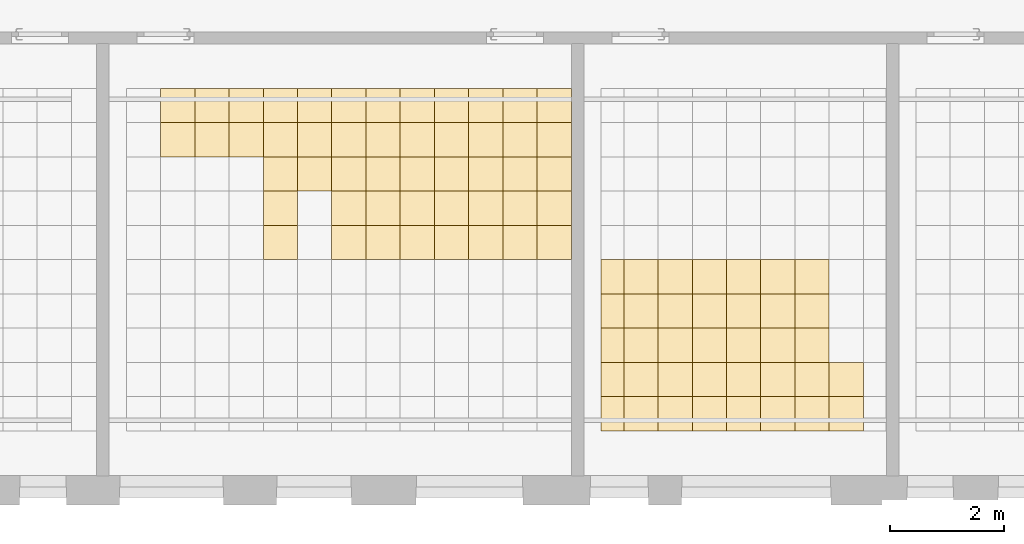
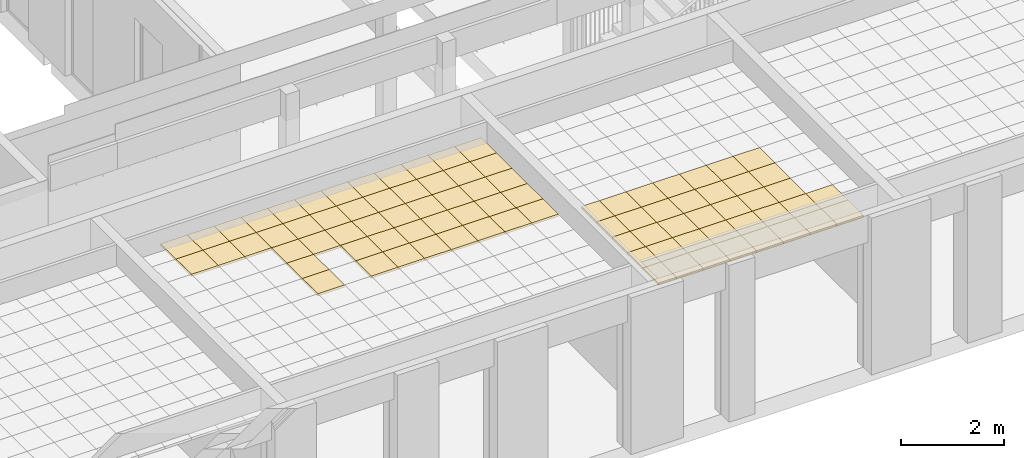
# One storey, part 69 of 79: 86 coverings.
"""IFC2X3 building model written with IfcOpenShell, lengths in millimetres."""

from ifc_helpers import new_model, entity, si_unit, converted_unit, derived_unit, money_unit, direction, frame, origin_with_axes, place, context, subcontext, project, spatial, faceted_brep, material, material_list, type_object, element, save


model = new_model("IFC2X3")

# Units and contexts
model_context = context("Model", 3, precision=0.01, world=origin_with_axes(), true_north=direction((0.0, 1.0)))
body_context = subcontext(model_context, "Body", "Model", "MODEL_VIEW")
ifc_project = project(units=[si_unit("LENGTHUNIT", "METRE", prefix="MILLI"), si_unit("AREAUNIT", "SQUARE_METRE"), si_unit("VOLUMEUNIT", "CUBIC_METRE"), converted_unit("PLANEANGLEUNIT", "DEGREE", entity("IfcPlaneAngleMeasure", 0.0174532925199), si_unit("PLANEANGLEUNIT", "RADIAN"), dimensions=[0, 0, 0, 0, 0, 0, 0]), si_unit("SOLIDANGLEUNIT", "STERADIAN"), money_unit("EUR"), converted_unit("TIMEUNIT", "Year", entity("IfcTimeMeasure", 31556926.0), si_unit("TIMEUNIT", "SECOND"), dimensions=[0, 0, 1, 0, 0, 0, 0]), si_unit("MASSUNIT", "GRAM", prefix="KILO"), si_unit("THERMODYNAMICTEMPERATUREUNIT", "DEGREE_CELSIUS"), si_unit("LUMINOUSINTENSITYUNIT", "LUMEN"), si_unit("ENERGYUNIT", "JOULE", prefix="MEGA"), derived_unit("THERMALCONDUCTANCEUNIT", [(si_unit("POWERUNIT", "WATT"), 1), (si_unit("LENGTHUNIT", "METRE"), -1), (si_unit("THERMODYNAMICTEMPERATUREUNIT", "KELVIN"), -1)]), derived_unit("SPECIFICHEATCAPACITYUNIT", [(si_unit("ENERGYUNIT", "JOULE"), 1), (si_unit("MASSUNIT", "GRAM", prefix="KILO"), -1), (si_unit("THERMODYNAMICTEMPERATUREUNIT", "KELVIN"), -1)]), derived_unit("MASSDENSITYUNIT", [(si_unit("MASSUNIT", "GRAM", prefix="KILO"), 1), (si_unit("VOLUMEUNIT", "CUBIC_METRE"), -1)])], contexts=[model_context])

# Site, building, storey
site_placement = place(None, origin_with_axes())
site = spatial("IfcSite", under=ifc_project, at=site_placement, Name="L.Koidula tn 11b", CompositionType="ELEMENT")
building_placement = place(site_placement, origin_with_axes())
building = spatial("IfcBuilding", under=site, at=building_placement, Name="Rakvere Riigigümnaasium", CompositionType="ELEMENT")
storey_placement = place(building_placement, frame((0.0, 0.0, 3720.0), z_axis=(0.0, 0.0, 1.0), x_axis=(1.0, 0.0, 0.0)))
storey = spatial("IfcBuildingStorey", under=building, at=storey_placement, Name="2.korrus +3,72", CompositionType="ELEMENT", Elevation=3720.0)

# Coverings
ifc_material_1 = material(Name="Karkass")
ifc_material_2 = material(Name="Kipsplaat")
ifc_material_list = material_list([ifc_material_1, ifc_material_2])
covering_type = type_object("IfcCoveringType", Name="SA-LV-Kips-moodul 55", PredefinedType="CEILING")
for number, where, z_axis, x_axis, name in (
    (1, (64129.7188137, 7490.45359412, 2750.0), (0.0, 0.0, 1.0), (1.0, 0.0, 0.0), "L-03"),
    (2, (64129.7188137, 8090.45359412, 2750.0), (0.0, 0.0, 1.0), (1.0, 0.0, 0.0), "L-03"),
    (3, (64129.7188137, 8690.45359412, 2750.0), (0.0, 0.0, 1.0), (1.0, 0.0, 0.0), "L-03"),
    (4, (64129.7188137, 6890.45359412, 2750.0), (0.0, 0.0, 1.0), (1.0, 0.0, 0.0), "L-03"),
    (5, (64129.7188137, 6290.45359412, 2750.0), (0.0, 0.0, 1.0), (1.0, 0.0, 0.0), "L-03"),
):
    element("IfcCovering", number, at=place(storey_placement, frame(where, z_axis=z_axis, x_axis=x_axis)), inside=storey, type_object=covering_type, material=ifc_material_list, Name=name, PredefinedType="CEILING", context=body_context, shape_type="Brep", body=[
        faceted_brep([(599.999948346, 0.0, 12.5), (599.999948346, 0.0, 54.5), (0.0, 0.0, 54.5), (0.0, 0.0, 12.5), (599.999948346, 600.0, 12.5), (599.999948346, 600.0, 54.5), (0.0, 600.0, 54.5), (0.0, 600.0, 12.5)], [[[0, 1, 2, 3]], [[4, 5, 1, 0]], [[2, 1, 5, 6]], [[3, 2, 6, 7]], [[3, 7, 4, 0]], [[7, 6, 5, 4]]]),
        faceted_brep([(0.0, 0.0, 0.0), (599.999948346, 0.0, 0.0), (599.999948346, 0.0, 12.5), (0.0, 0.0, 12.5), (0.0, 600.0, 0.0), (599.999948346, 600.0, 0.0), (599.999948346, 600.0, 12.5), (0.0, 600.0, 12.5)], [[[0, 1, 2, 3]], [[0, 4, 5, 1]], [[1, 5, 6, 2]], [[3, 2, 6, 7]], [[4, 0, 3, 7]], [[5, 4, 7, 6]]]),
    ])
for number, where, z_axis, x_axis, name in (
    (6, (64729.718762, 8690.45359412, 2750.0), (0.0, 0.0, 1.0), (1.0, 0.0, 0.0), "L-03"),
    (7, (64729.718762, 8090.45359412, 2750.0), (0.0, 0.0, 1.0), (1.0, 0.0, 0.0), "L-03"),
    (8, (64729.718762, 7490.45359412, 2750.0), (0.0, 0.0, 1.0), (1.0, 0.0, 0.0), "L-03"),
):
    element("IfcCovering", number, at=place(storey_placement, frame(where, z_axis=z_axis, x_axis=x_axis)), inside=storey, type_object=covering_type, material=ifc_material_list, Name=name, PredefinedType="CEILING", context=body_context, shape_type="Brep", body=[
        faceted_brep([(600.0, 0.0, 12.5), (600.0, 0.0, 54.5), (0.0, 0.0, 54.5), (0.0, 0.0, 12.5), (600.0, 600.0, 12.5), (600.0, 600.0, 54.5), (0.0, 600.0, 54.5), (0.0, 600.0, 12.5)], [[[0, 1, 2, 3]], [[4, 5, 1, 0]], [[2, 1, 5, 6]], [[3, 2, 6, 7]], [[3, 7, 4, 0]], [[7, 6, 5, 4]]]),
        faceted_brep([(0.0, 0.0, 0.0), (600.0, 0.0, 0.0), (600.0, 0.0, 12.5), (0.0, 0.0, 12.5), (0.0, 600.0, 0.0), (600.0, 600.0, 0.0), (600.0, 600.0, 12.5), (0.0, 600.0, 12.5)], [[[0, 1, 2, 3]], [[0, 4, 5, 1]], [[1, 5, 6, 2]], [[3, 2, 6, 7]], [[4, 0, 3, 7]], [[5, 4, 7, 6]]]),
    ])
for number, where, z_axis, x_axis, name in (
    (9, (65329.718762, 6890.45359412, 2750.0), (0.0, 0.0, 1.0), (1.0, 0.0, 0.0), "L-03"),
    (10, (65329.718762, 6290.45359412, 2750.0), (0.0, 0.0, 1.0), (1.0, 0.0, 0.0), "L-03"),
):
    element("IfcCovering", number, at=place(storey_placement, frame(where, z_axis=z_axis, x_axis=x_axis)), inside=storey, type_object=covering_type, material=ifc_material_list, Name=name, PredefinedType="CEILING", context=body_context, shape_type="Brep", body=[
        faceted_brep([(599.999948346, 0.0, 12.5), (599.999948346, 0.0, 54.5), (0.0, 0.0, 54.5), (0.0, 0.0, 12.5), (599.999948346, 600.0, 12.5), (599.999948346, 600.0, 54.5), (0.0, 600.0, 54.5), (0.0, 600.0, 12.5)], [[[0, 1, 2, 3]], [[4, 5, 1, 0]], [[2, 1, 5, 6]], [[3, 2, 6, 7]], [[3, 7, 4, 0]], [[7, 6, 5, 4]]]),
        faceted_brep([(0.0, 0.0, 0.0), (599.999948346, 0.0, 0.0), (599.999948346, 0.0, 12.5), (0.0, 0.0, 12.5), (0.0, 600.0, 0.0), (599.999948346, 600.0, 0.0), (599.999948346, 600.0, 12.5), (0.0, 600.0, 12.5)], [[[0, 1, 2, 3]], [[0, 4, 5, 1]], [[1, 5, 6, 2]], [[3, 2, 6, 7]], [[4, 0, 3, 7]], [[5, 4, 7, 6]]]),
    ])
for number, where, z_axis, x_axis, name in (
    (11, (64729.718762, 6290.45359412, 2750.0), (0.0, 0.0, 1.0), (1.0, 0.0, 0.0), "L-03"),
    (12, (62329.7188653, 6290.45359412, 2750.0), (0.0, 0.0, 1.0), (1.0, 0.0, 0.0), "L-03"),
    (13, (62329.7188653, 6890.45359412, 2750.0), (0.0, 0.0, 1.0), (1.0, 0.0, 0.0), "L-03"),
    (14, (64729.718762, 6890.45359412, 2750.0), (0.0, 0.0, 1.0), (1.0, 0.0, 0.0), "L-03"),
    (15, (63529.7188137, 6890.45359412, 2750.0), (0.0, 0.0, 1.0), (1.0, 0.0, 0.0), "L-03"),
    (16, (63529.7188137, 6290.45359412, 2750.0), (0.0, 0.0, 1.0), (1.0, 0.0, 0.0), "L-03"),
    (17, (63529.7188137, 7490.45359412, 2750.0), (0.0, 0.0, 1.0), (1.0, 0.0, 0.0), "L-03"),
    (18, (63529.7188137, 8090.45359412, 2750.0), (0.0, 0.0, 1.0), (1.0, 0.0, 0.0), "L-03"),
    (19, (63529.7188137, 8690.45359412, 2750.0), (0.0, 0.0, 1.0), (1.0, 0.0, 0.0), "L-03"),
):
    element("IfcCovering", number, at=place(storey_placement, frame(where, z_axis=z_axis, x_axis=x_axis)), inside=storey, type_object=covering_type, material=ifc_material_list, Name=name, PredefinedType="CEILING", context=body_context, shape_type="Brep", body=[
        faceted_brep([(600.0, 0.0, 12.5), (600.0, 0.0, 54.5), (0.0, 0.0, 54.5), (0.0, 0.0, 12.5), (600.0, 600.0, 12.5), (600.0, 600.0, 54.5), (0.0, 600.0, 54.5), (0.0, 600.0, 12.5)], [[[0, 1, 2, 3]], [[4, 5, 1, 0]], [[2, 1, 5, 6]], [[3, 2, 6, 7]], [[3, 7, 4, 0]], [[7, 6, 5, 4]]]),
        faceted_brep([(0.0, 0.0, 0.0), (600.0, 0.0, 0.0), (600.0, 0.0, 12.5), (0.0, 0.0, 12.5), (0.0, 600.0, 0.0), (600.0, 600.0, 0.0), (600.0, 600.0, 12.5), (0.0, 600.0, 12.5)], [[[0, 1, 2, 3]], [[0, 4, 5, 1]], [[1, 5, 6, 2]], [[3, 2, 6, 7]], [[4, 0, 3, 7]], [[5, 4, 7, 6]]]),
    ])
for number, where, z_axis, x_axis, name in (
    (20, (61729.718917, 8690.45359412, 2750.0), (0.0, 0.0, 1.0), (1.0, 0.0, 0.0), "L-03"),
    (21, (61729.718917, 8090.45359412, 2750.0), (0.0, 0.0, 1.0), (1.0, 0.0, 0.0), "L-03"),
    (22, (61729.718917, 7490.45359412, 2750.0), (0.0, 0.0, 1.0), (1.0, 0.0, 0.0), "L-03"),
    (23, (61729.718917, 6290.45359412, 2750.0), (0.0, 0.0, 1.0), (1.0, 0.0, 0.0), "L-03"),
    (24, (61729.718917, 6890.45359412, 2750.0), (0.0, 0.0, 1.0), (1.0, 0.0, 0.0), "L-03"),
):
    element("IfcCovering", number, at=place(storey_placement, frame(where, z_axis=z_axis, x_axis=x_axis)), inside=storey, type_object=covering_type, material=ifc_material_list, Name=name, PredefinedType="CEILING", context=body_context, shape_type="Brep", body=[
        faceted_brep([(599.999948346, 0.0, 12.5), (599.999948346, 0.0, 54.5), (0.0, 0.0, 54.5), (0.0, 0.0, 12.5), (599.999948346, 600.0, 12.5), (599.999948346, 600.0, 54.5), (0.0, 600.0, 54.5), (0.0, 600.0, 12.5)], [[[0, 1, 2, 3]], [[4, 5, 1, 0]], [[2, 1, 5, 6]], [[3, 2, 6, 7]], [[3, 7, 4, 0]], [[7, 6, 5, 4]]]),
        faceted_brep([(0.0, 0.0, 0.0), (599.999948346, 0.0, 0.0), (599.999948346, 0.0, 12.5), (0.0, 0.0, 12.5), (0.0, 600.0, 0.0), (599.999948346, 600.0, 0.0), (599.999948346, 600.0, 12.5), (0.0, 600.0, 12.5)], [[[0, 1, 2, 3]], [[0, 4, 5, 1]], [[1, 5, 6, 2]], [[3, 2, 6, 7]], [[4, 0, 3, 7]], [[5, 4, 7, 6]]]),
    ])
for number, where, z_axis, x_axis, name in (
    (25, (61329.7177494, 7490.45359412, 2750.0), (0.0, 0.0, 1.0), (1.0, 0.0, 0.0), "L-03"),
    (26, (61329.7177494, 8090.45359412, 2750.0), (0.0, 0.0, 1.0), (1.0, 0.0, 0.0), "L-03"),
    (27, (61329.7177494, 8690.45359412, 2750.0), (0.0, 0.0, 1.0), (1.0, 0.0, 0.0), "L-03"),
    (28, (61329.7177494, 6290.45359412, 2750.0), (0.0, 0.0, 1.0), (1.0, 0.0, 0.0), "L-03"),
    (29, (61329.7177494, 6890.45359412, 2750.0), (0.0, 0.0, 1.0), (1.0, 0.0, 0.0), "L-03"),
):
    element("IfcCovering", number, at=place(storey_placement, frame(where, z_axis=z_axis, x_axis=x_axis)), inside=storey, type_object=covering_type, material=ifc_material_list, Name=name, PredefinedType="CEILING", context=body_context, shape_type="Brep", body=[
        faceted_brep([(400.001167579, 0.0, 12.5), (400.001167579, 0.0, 54.5), (0.0, 0.0, 54.5), (0.0, 0.0, 12.5), (400.001167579, 600.0, 12.5), (400.001167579, 600.0, 54.5), (0.0, 600.0, 54.5), (0.0, 600.0, 12.5)], [[[0, 1, 2, 3]], [[4, 5, 1, 0]], [[2, 1, 5, 6]], [[3, 2, 6, 7]], [[3, 7, 4, 0]], [[7, 6, 5, 4]]]),
        faceted_brep([(0.0, 0.0, 0.0), (400.001167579, 0.0, 0.0), (400.001167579, 0.0, 12.5), (0.0, 0.0, 12.5), (0.0, 600.0, 0.0), (400.001167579, 600.0, 0.0), (400.001167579, 600.0, 12.5), (0.0, 600.0, 12.5)], [[[0, 1, 2, 3]], [[0, 4, 5, 1]], [[1, 5, 6, 2]], [[3, 2, 6, 7]], [[4, 0, 3, 7]], [[5, 4, 7, 6]]]),
    ])
for number, where, z_axis, x_axis, name in (
    (30, (62929.7188653, 8690.45359412, 2750.0), (0.0, 0.0, 1.0), (1.0, 0.0, 0.0), "L-03"),
    (31, (62929.7188653, 8090.45359412, 2750.0), (0.0, 0.0, 1.0), (1.0, 0.0, 0.0), "L-03"),
    (32, (62929.7188653, 7490.45359412, 2750.0), (0.0, 0.0, 1.0), (1.0, 0.0, 0.0), "L-03"),
    (33, (62929.7188653, 6290.45359412, 2750.0), (0.0, 0.0, 1.0), (1.0, 0.0, 0.0), "L-03"),
    (34, (62929.7188653, 6890.45359412, 2750.0), (0.0, 0.0, 1.0), (1.0, 0.0, 0.0), "L-03"),
):
    element("IfcCovering", number, at=place(storey_placement, frame(where, z_axis=z_axis, x_axis=x_axis)), inside=storey, type_object=covering_type, material=ifc_material_list, Name=name, PredefinedType="CEILING", context=body_context, shape_type="Brep", body=[
        faceted_brep([(599.999948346, 0.0, 12.5), (599.999948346, 0.0, 54.5), (0.0, 0.0, 54.5), (0.0, 0.0, 12.5), (599.999948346, 600.0, 12.5), (599.999948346, 600.0, 54.5), (0.0, 600.0, 54.5), (0.0, 600.0, 12.5)], [[[0, 1, 2, 3]], [[4, 5, 1, 0]], [[2, 1, 5, 6]], [[3, 2, 6, 7]], [[3, 7, 4, 0]], [[7, 6, 5, 4]]]),
        faceted_brep([(0.0, 0.0, 0.0), (599.999948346, 0.0, 0.0), (599.999948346, 0.0, 12.5), (0.0, 0.0, 12.5), (0.0, 600.0, 0.0), (599.999948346, 600.0, 0.0), (599.999948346, 600.0, 12.5), (0.0, 600.0, 12.5)], [[[0, 1, 2, 3]], [[0, 4, 5, 1]], [[1, 5, 6, 2]], [[3, 2, 6, 7]], [[4, 0, 3, 7]], [[5, 4, 7, 6]]]),
    ])
for number, where, z_axis, x_axis, name in (
    (35, (62329.7188653, 7490.45359412, 2750.0), (0.0, 0.0, 1.0), (1.0, 0.0, 0.0), "L-03"),
    (36, (62329.7188653, 8090.45359412, 2750.0), (0.0, 0.0, 1.0), (1.0, 0.0, 0.0), "L-03"),
    (37, (62329.7188653, 8690.45359412, 2750.0), (0.0, 0.0, 1.0), (1.0, 0.0, 0.0), "L-03"),
    (38, (56609.6769357, 11090.4535941, 2750.0), (0.0, 0.0, 1.0), (1.0, 0.0, 0.0), "L-03"),
):
    element("IfcCovering", number, at=place(storey_placement, frame(where, z_axis=z_axis, x_axis=x_axis)), inside=storey, type_object=covering_type, material=ifc_material_list, Name=name, PredefinedType="CEILING", context=body_context, shape_type="Brep", body=[
        faceted_brep([(600.0, 0.0, 12.5), (600.0, 0.0, 54.5), (0.0, 0.0, 54.5), (0.0, 0.0, 12.5), (600.0, 600.0, 12.5), (600.0, 600.0, 54.5), (0.0, 600.0, 54.5), (0.0, 600.0, 12.5)], [[[0, 1, 2, 3]], [[4, 5, 1, 0]], [[2, 1, 5, 6]], [[3, 2, 6, 7]], [[3, 7, 4, 0]], [[7, 6, 5, 4]]]),
        faceted_brep([(0.0, 0.0, 0.0), (600.0, 0.0, 0.0), (600.0, 0.0, 12.5), (0.0, 0.0, 12.5), (0.0, 600.0, 0.0), (600.0, 600.0, 0.0), (600.0, 600.0, 12.5), (0.0, 600.0, 12.5)], [[[0, 1, 2, 3]], [[0, 4, 5, 1]], [[1, 5, 6, 2]], [[3, 2, 6, 7]], [[4, 0, 3, 7]], [[5, 4, 7, 6]]]),
    ])
for number, where, z_axis, x_axis, name in (
    (39, (53609.6770907, 11690.4535941, 2750.0), (0.0, 0.0, 1.0), (1.0, 0.0, 0.0), "L-03"),
    (40, (53609.6770907, 11090.4535941, 2750.0), (0.0, 0.0, 1.0), (1.0, 0.0, 0.0), "L-03"),
    (41, (54809.677039, 11090.4535941, 2750.0), (0.0, 0.0, 1.0), (1.0, 0.0, 0.0), "L-03"),
):
    element("IfcCovering", number, at=place(storey_placement, frame(where, z_axis=z_axis, x_axis=x_axis)), inside=storey, type_object=covering_type, material=ifc_material_list, Name=name, PredefinedType="CEILING", context=body_context, shape_type="Brep", body=[
        faceted_brep([(599.999948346, 0.0, 12.5), (599.999948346, 0.0, 54.5), (0.0, 0.0, 54.5), (0.0, 0.0, 12.5), (599.999948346, 600.0, 12.5), (599.999948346, 600.0, 54.5), (0.0, 600.0, 54.5), (0.0, 600.0, 12.5)], [[[0, 1, 2, 3]], [[4, 5, 1, 0]], [[2, 1, 5, 6]], [[3, 2, 6, 7]], [[3, 7, 4, 0]], [[7, 6, 5, 4]]]),
        faceted_brep([(0.0, 0.0, 0.0), (599.999948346, 0.0, 0.0), (599.999948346, 0.0, 12.5), (0.0, 0.0, 12.5), (0.0, 600.0, 0.0), (599.999948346, 600.0, 0.0), (599.999948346, 600.0, 12.5), (0.0, 600.0, 12.5)], [[[0, 1, 2, 3]], [[0, 4, 5, 1]], [[1, 5, 6, 2]], [[3, 2, 6, 7]], [[4, 0, 3, 7]], [[5, 4, 7, 6]]]),
    ])
for number, where, z_axis, x_axis, name in (
    (42, (57809.6768841, 9890.45359412, 2750.0), (0.0, 0.0, 1.0), (1.0, 0.0, 0.0), "L-03"),
    (43, (59009.6768324, 11690.4535941, 2750.0), (0.0, 0.0, 1.0), (1.0, 0.0, 0.0), "L-03"),
    (44, (59009.6768324, 9890.45359412, 2750.0), (0.0, 0.0, 1.0), (1.0, 0.0, 0.0), "L-03"),
    (45, (59009.6768324, 9290.45359412, 2750.0), (0.0, 0.0, 1.0), (1.0, 0.0, 0.0), "L-03"),
    (46, (60209.6767808, 9290.45359412, 2750.0), (0.0, 0.0, 1.0), (1.0, 0.0, 0.0), "L-03"),
    (47, (60209.6767808, 11090.4535941, 2750.0), (0.0, 0.0, 1.0), (1.0, 0.0, 0.0), "L-03"),
    (48, (60209.6767808, 9890.45359412, 2750.0), (0.0, 0.0, 1.0), (1.0, 0.0, 0.0), "L-03"),
    (49, (60209.6767808, 11690.4535941, 2750.0), (0.0, 0.0, 1.0), (1.0, 0.0, 0.0), "L-03"),
    (50, (60209.6767808, 10490.4535941, 2750.0), (0.0, 0.0, 1.0), (1.0, 0.0, 0.0), "L-03"),
):
    element("IfcCovering", number, at=place(storey_placement, frame(where, z_axis=z_axis, x_axis=x_axis)), inside=storey, type_object=covering_type, material=ifc_material_list, Name=name, PredefinedType="CEILING", context=body_context, shape_type="Brep", body=[
        faceted_brep([(600.0, 0.0, 12.5), (600.0, 0.0, 54.5), (0.0, 0.0, 54.5), (0.0, 0.0, 12.5), (600.0, 600.0, 12.5), (600.0, 600.0, 54.5), (0.0, 600.0, 54.5), (0.0, 600.0, 12.5)], [[[0, 1, 2, 3]], [[4, 5, 1, 0]], [[2, 1, 5, 6]], [[3, 2, 6, 7]], [[3, 7, 4, 0]], [[7, 6, 5, 4]]]),
        faceted_brep([(0.0, 0.0, 0.0), (600.0, 0.0, 0.0), (600.0, 0.0, 12.5), (0.0, 0.0, 12.5), (0.0, 600.0, 0.0), (600.0, 600.0, 0.0), (600.0, 600.0, 12.5), (0.0, 600.0, 12.5)], [[[0, 1, 2, 3]], [[0, 4, 5, 1]], [[1, 5, 6, 2]], [[3, 2, 6, 7]], [[4, 0, 3, 7]], [[5, 4, 7, 6]]]),
    ])
covering_1_placement = place(storey_placement, frame((59609.6768324, 11690.4535941, 2750.0), z_axis=(0.0, 0.0, 1.0), x_axis=(1.0, 0.0, 0.0)))
element("IfcCovering", 51, at=covering_1_placement, inside=storey, type_object=covering_type, material=ifc_material_list, Name="L-03", PredefinedType="CEILING", context=body_context, shape_type="Brep", body=[
    faceted_brep([(599.999948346, 0.0, 12.5), (599.999948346, 0.0, 54.5), (0.0, 0.0, 54.5), (0.0, 0.0, 12.5), (599.999948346, 600.0, 12.5), (599.999948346, 600.0, 54.5), (0.0, 600.0, 54.5), (0.0, 600.0, 12.5)], [[[0, 1, 2, 3]], [[4, 5, 1, 0]], [[2, 1, 5, 6]], [[3, 2, 6, 7]], [[3, 7, 4, 0]], [[7, 6, 5, 4]]]),
    faceted_brep([(0.0, 0.0, 0.0), (599.999948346, 0.0, 0.0), (599.999948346, 0.0, 12.5), (0.0, 0.0, 12.5), (0.0, 600.0, 0.0), (599.999948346, 600.0, 0.0), (599.999948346, 600.0, 12.5), (0.0, 600.0, 12.5)], [[[0, 1, 2, 3]], [[0, 4, 5, 1]], [[1, 5, 6, 2]], [[3, 2, 6, 7]], [[4, 0, 3, 7]], [[5, 4, 7, 6]]]),
])
covering_2_placement = place(storey_placement, frame((59009.6768324, 10490.4535941, 2750.0), z_axis=(0.0, 0.0, 1.0), x_axis=(1.0, 0.0, 0.0)))
element("IfcCovering", 52, at=covering_2_placement, inside=storey, type_object=covering_type, material=ifc_material_list, Name="L-03", PredefinedType="CEILING", context=body_context, shape_type="Brep", body=[
    faceted_brep([(600.0, 0.0, 12.5), (600.0, 0.0, 54.5), (0.0, 0.0, 54.5), (0.0, 0.0, 12.5), (600.0, 600.0, 12.5), (600.0, 600.0, 54.5), (0.0, 600.0, 54.5), (0.0, 600.0, 12.5)], [[[0, 1, 2, 3]], [[4, 5, 1, 0]], [[2, 1, 5, 6]], [[3, 2, 6, 7]], [[3, 7, 4, 0]], [[7, 6, 5, 4]]]),
    faceted_brep([(0.0, 0.0, 0.0), (600.0, 0.0, 0.0), (600.0, 0.0, 12.5), (0.0, 0.0, 12.5), (0.0, 600.0, 0.0), (600.0, 600.0, 0.0), (600.0, 600.0, 12.5), (0.0, 600.0, 12.5)], [[[0, 1, 2, 3]], [[0, 4, 5, 1]], [[1, 5, 6, 2]], [[3, 2, 6, 7]], [[4, 0, 3, 7]], [[5, 4, 7, 6]]]),
])
for number, where, z_axis, x_axis, name in (
    (53, (59609.6768324, 9290.45359412, 2750.0), (0.0, 0.0, 1.0), (1.0, 0.0, 0.0), "L-03"),
    (54, (59609.6768324, 9890.45359412, 2750.0), (0.0, 0.0, 1.0), (1.0, 0.0, 0.0), "L-03"),
    (55, (59609.6768324, 11090.4535941, 2750.0), (0.0, 0.0, 1.0), (1.0, 0.0, 0.0), "L-03"),
    (56, (59609.6768324, 10490.4535941, 2750.0), (0.0, 0.0, 1.0), (1.0, 0.0, 0.0), "L-03"),
):
    element("IfcCovering", number, at=place(storey_placement, frame(where, z_axis=z_axis, x_axis=x_axis)), inside=storey, type_object=covering_type, material=ifc_material_list, Name=name, PredefinedType="CEILING", context=body_context, shape_type="Brep", body=[
        faceted_brep([(599.999948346, 0.0, 12.5), (599.999948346, 0.0, 54.5), (0.0, 0.0, 54.5), (0.0, 0.0, 12.5), (599.999948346, 600.0, 12.5), (599.999948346, 600.0, 54.5), (0.0, 600.0, 54.5), (0.0, 600.0, 12.5)], [[[0, 1, 2, 3]], [[4, 5, 1, 0]], [[2, 1, 5, 6]], [[3, 2, 6, 7]], [[3, 7, 4, 0]], [[7, 6, 5, 4]]]),
        faceted_brep([(0.0, 0.0, 0.0), (599.999948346, 0.0, 0.0), (599.999948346, 0.0, 12.5), (0.0, 0.0, 12.5), (0.0, 600.0, 0.0), (599.999948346, 600.0, 0.0), (599.999948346, 600.0, 12.5), (0.0, 600.0, 12.5)], [[[0, 1, 2, 3]], [[0, 4, 5, 1]], [[1, 5, 6, 2]], [[3, 2, 6, 7]], [[4, 0, 3, 7]], [[5, 4, 7, 6]]]),
    ])
for number, where, z_axis, x_axis, name in (
    (57, (57809.6768841, 9290.45359412, 2750.0), (0.0, 0.0, 1.0), (1.0, 0.0, 0.0), "L-03"),
    (58, (59009.6768324, 11090.4535941, 2750.0), (0.0, 0.0, 1.0), (1.0, 0.0, 0.0), "L-03"),
    (59, (57809.6768841, 11690.4535941, 2750.0), (0.0, 0.0, 1.0), (1.0, 0.0, 0.0), "L-03"),
    (60, (57809.6768841, 11090.4535941, 2750.0), (0.0, 0.0, 1.0), (1.0, 0.0, 0.0), "L-03"),
    (61, (57809.6768841, 10490.4535941, 2750.0), (0.0, 0.0, 1.0), (1.0, 0.0, 0.0), "L-03"),
):
    element("IfcCovering", number, at=place(storey_placement, frame(where, z_axis=z_axis, x_axis=x_axis)), inside=storey, type_object=covering_type, material=ifc_material_list, Name=name, PredefinedType="CEILING", context=body_context, shape_type="Brep", body=[
        faceted_brep([(600.0, 0.0, 12.5), (600.0, 0.0, 54.5), (0.0, 0.0, 54.5), (0.0, 0.0, 12.5), (600.0, 600.0, 12.5), (600.0, 600.0, 54.5), (0.0, 600.0, 54.5), (0.0, 600.0, 12.5)], [[[0, 1, 2, 3]], [[4, 5, 1, 0]], [[2, 1, 5, 6]], [[3, 2, 6, 7]], [[3, 7, 4, 0]], [[7, 6, 5, 4]]]),
        faceted_brep([(0.0, 0.0, 0.0), (600.0, 0.0, 0.0), (600.0, 0.0, 12.5), (0.0, 0.0, 12.5), (0.0, 600.0, 0.0), (600.0, 600.0, 0.0), (600.0, 600.0, 12.5), (0.0, 600.0, 12.5)], [[[0, 1, 2, 3]], [[0, 4, 5, 1]], [[1, 5, 6, 2]], [[3, 2, 6, 7]], [[4, 0, 3, 7]], [[5, 4, 7, 6]]]),
    ])
for number, where, z_axis, x_axis, name in (
    (62, (56009.6769874, 11690.4535941, 2750.0), (0.0, 0.0, 1.0), (1.0, 0.0, 0.0), "L-03"),
    (63, (58409.6768841, 11690.4535941, 2750.0), (0.0, 0.0, 1.0), (1.0, 0.0, 0.0), "L-03"),
    (64, (56009.6769874, 11090.4535941, 2750.0), (0.0, 0.0, 1.0), (1.0, 0.0, 0.0), "L-03"),
    (65, (56009.6769874, 10490.4535941, 2750.0), (0.0, 0.0, 1.0), (1.0, 0.0, 0.0), "L-03"),
    (66, (58409.6768841, 9290.45359412, 2750.0), (0.0, 0.0, 1.0), (1.0, 0.0, 0.0), "L-03"),
    (67, (58409.6768841, 9890.45359412, 2750.0), (0.0, 0.0, 1.0), (1.0, 0.0, 0.0), "L-03"),
    (68, (58409.6768841, 10490.4535941, 2750.0), (0.0, 0.0, 1.0), (1.0, 0.0, 0.0), "L-03"),
):
    element("IfcCovering", number, at=place(storey_placement, frame(where, z_axis=z_axis, x_axis=x_axis)), inside=storey, type_object=covering_type, material=ifc_material_list, Name=name, PredefinedType="CEILING", context=body_context, shape_type="Brep", body=[
        faceted_brep([(599.999948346, 0.0, 12.5), (599.999948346, 0.0, 54.5), (0.0, 0.0, 54.5), (0.0, 0.0, 12.5), (599.999948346, 600.0, 12.5), (599.999948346, 600.0, 54.5), (0.0, 600.0, 54.5), (0.0, 600.0, 12.5)], [[[0, 1, 2, 3]], [[4, 5, 1, 0]], [[2, 1, 5, 6]], [[3, 2, 6, 7]], [[3, 7, 4, 0]], [[7, 6, 5, 4]]]),
        faceted_brep([(0.0, 0.0, 0.0), (599.999948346, 0.0, 0.0), (599.999948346, 0.0, 12.5), (0.0, 0.0, 12.5), (0.0, 600.0, 0.0), (599.999948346, 600.0, 0.0), (599.999948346, 600.0, 12.5), (0.0, 600.0, 12.5)], [[[0, 1, 2, 3]], [[0, 4, 5, 1]], [[1, 5, 6, 2]], [[3, 2, 6, 7]], [[4, 0, 3, 7]], [[5, 4, 7, 6]]]),
    ])
covering_3_placement = place(storey_placement, frame((54209.677039, 11090.4535941, 2750.0), z_axis=(0.0, 0.0, 1.0), x_axis=(1.0, 0.0, 0.0)))
element("IfcCovering", 69, at=covering_3_placement, inside=storey, type_object=covering_type, material=ifc_material_list, Name="L-03", PredefinedType="CEILING", context=body_context, shape_type="Brep", body=[
    faceted_brep([(600.0, 0.0, 12.5), (600.0, 0.0, 54.5), (0.0, 0.0, 54.5), (0.0, 0.0, 12.5), (600.0, 600.0, 12.5), (600.0, 600.0, 54.5), (0.0, 600.0, 54.5), (0.0, 600.0, 12.5)], [[[0, 1, 2, 3]], [[4, 5, 1, 0]], [[2, 1, 5, 6]], [[3, 2, 6, 7]], [[3, 7, 4, 0]], [[7, 6, 5, 4]]]),
    faceted_brep([(0.0, 0.0, 0.0), (600.0, 0.0, 0.0), (600.0, 0.0, 12.5), (0.0, 0.0, 12.5), (0.0, 600.0, 0.0), (600.0, 600.0, 0.0), (600.0, 600.0, 12.5), (0.0, 600.0, 12.5)], [[[0, 1, 2, 3]], [[0, 4, 5, 1]], [[1, 5, 6, 2]], [[3, 2, 6, 7]], [[4, 0, 3, 7]], [[5, 4, 7, 6]]]),
])
covering_4_placement = place(storey_placement, frame((58409.6768841, 11090.4535941, 2750.0), z_axis=(0.0, 0.0, 1.0), x_axis=(1.0, 0.0, 0.0)))
element("IfcCovering", 70, at=covering_4_placement, inside=storey, type_object=covering_type, material=ifc_material_list, Name="L-03", PredefinedType="CEILING", context=body_context, shape_type="Brep", body=[
    faceted_brep([(599.999948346, 0.0, 12.5), (599.999948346, 0.0, 54.5), (0.0, 0.0, 54.5), (0.0, 0.0, 12.5), (599.999948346, 600.0, 12.5), (599.999948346, 600.0, 54.5), (0.0, 600.0, 54.5), (0.0, 600.0, 12.5)], [[[0, 1, 2, 3]], [[4, 5, 1, 0]], [[2, 1, 5, 6]], [[3, 2, 6, 7]], [[3, 7, 4, 0]], [[7, 6, 5, 4]]]),
    faceted_brep([(0.0, 0.0, 0.0), (599.999948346, 0.0, 0.0), (599.999948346, 0.0, 12.5), (0.0, 0.0, 12.5), (0.0, 600.0, 0.0), (599.999948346, 600.0, 0.0), (599.999948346, 600.0, 12.5), (0.0, 600.0, 12.5)], [[[0, 1, 2, 3]], [[0, 4, 5, 1]], [[1, 5, 6, 2]], [[3, 2, 6, 7]], [[4, 0, 3, 7]], [[5, 4, 7, 6]]]),
])
covering_5_placement = place(storey_placement, frame((54209.677039, 11690.4535941, 2750.0), z_axis=(0.0, 0.0, 1.0), x_axis=(1.0, 0.0, 0.0)))
element("IfcCovering", 71, at=covering_5_placement, inside=storey, type_object=covering_type, material=ifc_material_list, Name="L-03", PredefinedType="CEILING", context=body_context, shape_type="Brep", body=[
    faceted_brep([(600.0, 0.0, 12.5), (600.0, 0.0, 54.5), (0.0, 0.0, 54.5), (0.0, 0.0, 12.5), (600.0, 600.0, 12.5), (600.0, 600.0, 54.5), (0.0, 600.0, 54.5), (0.0, 600.0, 12.5)], [[[0, 1, 2, 3]], [[4, 5, 1, 0]], [[2, 1, 5, 6]], [[3, 2, 6, 7]], [[3, 7, 4, 0]], [[7, 6, 5, 4]]]),
    faceted_brep([(0.0, 0.0, 0.0), (600.0, 0.0, 0.0), (600.0, 0.0, 12.5), (0.0, 0.0, 12.5), (0.0, 600.0, 0.0), (600.0, 600.0, 0.0), (600.0, 600.0, 12.5), (0.0, 600.0, 12.5)], [[[0, 1, 2, 3]], [[0, 4, 5, 1]], [[1, 5, 6, 2]], [[3, 2, 6, 7]], [[4, 0, 3, 7]], [[5, 4, 7, 6]]]),
])
covering_6_placement = place(storey_placement, frame((57209.6769357, 11090.4535941, 2750.0), z_axis=(0.0, 0.0, 1.0), x_axis=(1.0, 0.0, 0.0)))
element("IfcCovering", 72, at=covering_6_placement, inside=storey, type_object=covering_type, material=ifc_material_list, Name="L-03", PredefinedType="CEILING", context=body_context, shape_type="Brep", body=[
    faceted_brep([(599.999948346, 0.0, 12.5), (599.999948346, 0.0, 54.5), (0.0, 0.0, 54.5), (0.0, 0.0, 12.5), (599.999948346, 600.0, 12.5), (599.999948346, 600.0, 54.5), (0.0, 600.0, 54.5), (0.0, 600.0, 12.5)], [[[0, 1, 2, 3]], [[4, 5, 1, 0]], [[2, 1, 5, 6]], [[3, 2, 6, 7]], [[3, 7, 4, 0]], [[7, 6, 5, 4]]]),
    faceted_brep([(0.0, 0.0, 0.0), (599.999948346, 0.0, 0.0), (599.999948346, 0.0, 12.5), (0.0, 0.0, 12.5), (0.0, 600.0, 0.0), (599.999948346, 600.0, 0.0), (599.999948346, 600.0, 12.5), (0.0, 600.0, 12.5)], [[[0, 1, 2, 3]], [[0, 4, 5, 1]], [[1, 5, 6, 2]], [[3, 2, 6, 7]], [[4, 0, 3, 7]], [[5, 4, 7, 6]]]),
])
for number, where, z_axis, x_axis, name in (
    (73, (56609.6769357, 11690.4535941, 2750.0), (0.0, 0.0, 1.0), (1.0, 0.0, 0.0), "L-03"),
    (74, (56609.6769357, 9890.45359412, 2750.0), (0.0, 0.0, 1.0), (1.0, 0.0, 0.0), "L-03"),
    (75, (56609.6769357, 10490.4535941, 2750.0), (0.0, 0.0, 1.0), (1.0, 0.0, 0.0), "L-03"),
):
    element("IfcCovering", number, at=place(storey_placement, frame(where, z_axis=z_axis, x_axis=x_axis)), inside=storey, type_object=covering_type, material=ifc_material_list, Name=name, PredefinedType="CEILING", context=body_context, shape_type="Brep", body=[
        faceted_brep([(600.0, 0.0, 12.5), (600.0, 0.0, 54.5), (0.0, 0.0, 54.5), (0.0, 0.0, 12.5), (600.0, 600.0, 12.5), (600.0, 600.0, 54.5), (0.0, 600.0, 54.5), (0.0, 600.0, 12.5)], [[[0, 1, 2, 3]], [[4, 5, 1, 0]], [[2, 1, 5, 6]], [[3, 2, 6, 7]], [[3, 7, 4, 0]], [[7, 6, 5, 4]]]),
        faceted_brep([(0.0, 0.0, 0.0), (600.0, 0.0, 0.0), (600.0, 0.0, 12.5), (0.0, 0.0, 12.5), (0.0, 600.0, 0.0), (600.0, 600.0, 0.0), (600.0, 600.0, 12.5), (0.0, 600.0, 12.5)], [[[0, 1, 2, 3]], [[0, 4, 5, 1]], [[1, 5, 6, 2]], [[3, 2, 6, 7]], [[4, 0, 3, 7]], [[5, 4, 7, 6]]]),
    ])
covering_7_placement = place(storey_placement, frame((57209.6769357, 10490.4535941, 2750.0), z_axis=(0.0, 0.0, 1.0), x_axis=(1.0, 0.0, 0.0)))
element("IfcCovering", 76, at=covering_7_placement, inside=storey, type_object=covering_type, material=ifc_material_list, Name="L-03", PredefinedType="CEILING", context=body_context, shape_type="Brep", body=[
    faceted_brep([(599.999948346, 0.0, 12.5), (599.999948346, 0.0, 54.5), (0.0, 0.0, 54.5), (0.0, 0.0, 12.5), (599.999948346, 600.0, 12.5), (599.999948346, 600.0, 54.5), (0.0, 600.0, 54.5), (0.0, 600.0, 12.5)], [[[0, 1, 2, 3]], [[4, 5, 1, 0]], [[2, 1, 5, 6]], [[3, 2, 6, 7]], [[3, 7, 4, 0]], [[7, 6, 5, 4]]]),
    faceted_brep([(0.0, 0.0, 0.0), (599.999948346, 0.0, 0.0), (599.999948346, 0.0, 12.5), (0.0, 0.0, 12.5), (0.0, 600.0, 0.0), (599.999948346, 600.0, 0.0), (599.999948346, 600.0, 12.5), (0.0, 600.0, 12.5)], [[[0, 1, 2, 3]], [[0, 4, 5, 1]], [[1, 5, 6, 2]], [[3, 2, 6, 7]], [[4, 0, 3, 7]], [[5, 4, 7, 6]]]),
])
for number, where, z_axis, x_axis, name in (
    (77, (56609.6769357, 9290.45359412, 2750.0), (0.0, 0.0, 1.0), (1.0, 0.0, 0.0), "L-03"),
    (78, (55409.6769874, 11690.4535941, 2750.0), (0.0, 0.0, 1.0), (1.0, 0.0, 0.0), "L-03"),
):
    element("IfcCovering", number, at=place(storey_placement, frame(where, z_axis=z_axis, x_axis=x_axis)), inside=storey, type_object=covering_type, material=ifc_material_list, Name=name, PredefinedType="CEILING", context=body_context, shape_type="Brep", body=[
        faceted_brep([(600.0, 0.0, 12.5), (600.0, 0.0, 54.5), (0.0, 0.0, 54.5), (0.0, 0.0, 12.5), (600.0, 600.0, 12.5), (600.0, 600.0, 54.5), (0.0, 600.0, 54.5), (0.0, 600.0, 12.5)], [[[0, 1, 2, 3]], [[4, 5, 1, 0]], [[2, 1, 5, 6]], [[3, 2, 6, 7]], [[3, 7, 4, 0]], [[7, 6, 5, 4]]]),
        faceted_brep([(0.0, 0.0, 0.0), (600.0, 0.0, 0.0), (600.0, 0.0, 12.5), (0.0, 0.0, 12.5), (0.0, 600.0, 0.0), (600.0, 600.0, 0.0), (600.0, 600.0, 12.5), (0.0, 600.0, 12.5)], [[[0, 1, 2, 3]], [[0, 4, 5, 1]], [[1, 5, 6, 2]], [[3, 2, 6, 7]], [[4, 0, 3, 7]], [[5, 4, 7, 6]]]),
    ])
for number, where, z_axis, x_axis, name in (
    (79, (57209.6769357, 9290.45359412, 2750.0), (0.0, 0.0, 1.0), (1.0, 0.0, 0.0), "L-03"),
    (80, (54809.677039, 11690.4535941, 2750.0), (0.0, 0.0, 1.0), (1.0, 0.0, 0.0), "L-03"),
):
    element("IfcCovering", number, at=place(storey_placement, frame(where, z_axis=z_axis, x_axis=x_axis)), inside=storey, type_object=covering_type, material=ifc_material_list, Name=name, PredefinedType="CEILING", context=body_context, shape_type="Brep", body=[
        faceted_brep([(599.999948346, 0.0, 12.5), (599.999948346, 0.0, 54.5), (0.0, 0.0, 54.5), (0.0, 0.0, 12.5), (599.999948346, 600.0, 12.5), (599.999948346, 600.0, 54.5), (0.0, 600.0, 54.5), (0.0, 600.0, 12.5)], [[[0, 1, 2, 3]], [[4, 5, 1, 0]], [[2, 1, 5, 6]], [[3, 2, 6, 7]], [[3, 7, 4, 0]], [[7, 6, 5, 4]]]),
        faceted_brep([(0.0, 0.0, 0.0), (599.999948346, 0.0, 0.0), (599.999948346, 0.0, 12.5), (0.0, 0.0, 12.5), (0.0, 600.0, 0.0), (599.999948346, 600.0, 0.0), (599.999948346, 600.0, 12.5), (0.0, 600.0, 12.5)], [[[0, 1, 2, 3]], [[0, 4, 5, 1]], [[1, 5, 6, 2]], [[3, 2, 6, 7]], [[4, 0, 3, 7]], [[5, 4, 7, 6]]]),
    ])
for number, where, z_axis, x_axis, name in (
    (81, (55409.6769874, 11090.4535941, 2750.0), (0.0, 0.0, 1.0), (1.0, 0.0, 0.0), "L-03"),
    (82, (55409.6769874, 10490.4535941, 2750.0), (0.0, 0.0, 1.0), (1.0, 0.0, 0.0), "L-03"),
    (83, (55409.6769874, 9890.45359412, 2750.0), (0.0, 0.0, 1.0), (1.0, 0.0, 0.0), "L-03"),
    (84, (55409.6769874, 9290.45359412, 2750.0), (0.0, 0.0, 1.0), (1.0, 0.0, 0.0), "L-03"),
):
    element("IfcCovering", number, at=place(storey_placement, frame(where, z_axis=z_axis, x_axis=x_axis)), inside=storey, type_object=covering_type, material=ifc_material_list, Name=name, PredefinedType="CEILING", context=body_context, shape_type="Brep", body=[
        faceted_brep([(600.0, 0.0, 12.5), (600.0, 0.0, 54.5), (0.0, 0.0, 54.5), (0.0, 0.0, 12.5), (600.0, 600.0, 12.5), (600.0, 600.0, 54.5), (0.0, 600.0, 54.5), (0.0, 600.0, 12.5)], [[[0, 1, 2, 3]], [[4, 5, 1, 0]], [[2, 1, 5, 6]], [[3, 2, 6, 7]], [[3, 7, 4, 0]], [[7, 6, 5, 4]]]),
        faceted_brep([(0.0, 0.0, 0.0), (600.0, 0.0, 0.0), (600.0, 0.0, 12.5), (0.0, 0.0, 12.5), (0.0, 600.0, 0.0), (600.0, 600.0, 0.0), (600.0, 600.0, 12.5), (0.0, 600.0, 12.5)], [[[0, 1, 2, 3]], [[0, 4, 5, 1]], [[1, 5, 6, 2]], [[3, 2, 6, 7]], [[4, 0, 3, 7]], [[5, 4, 7, 6]]]),
    ])
for number, where, z_axis, x_axis, name in (
    (85, (57209.6769357, 9890.45359412, 2750.0), (0.0, 0.0, 1.0), (1.0, 0.0, 0.0), "L-03"),
    (86, (57209.6769357, 11690.4535941, 2750.0), (0.0, 0.0, 1.0), (1.0, 0.0, 0.0), "L-03"),
):
    element("IfcCovering", number, at=place(storey_placement, frame(where, z_axis=z_axis, x_axis=x_axis)), inside=storey, type_object=covering_type, material=ifc_material_list, Name=name, PredefinedType="CEILING", context=body_context, shape_type="Brep", body=[
        faceted_brep([(599.999948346, 0.0, 12.5), (599.999948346, 0.0, 54.5), (0.0, 0.0, 54.5), (0.0, 0.0, 12.5), (599.999948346, 600.0, 12.5), (599.999948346, 600.0, 54.5), (0.0, 600.0, 54.5), (0.0, 600.0, 12.5)], [[[0, 1, 2, 3]], [[4, 5, 1, 0]], [[2, 1, 5, 6]], [[3, 2, 6, 7]], [[3, 7, 4, 0]], [[7, 6, 5, 4]]]),
        faceted_brep([(0.0, 0.0, 0.0), (599.999948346, 0.0, 0.0), (599.999948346, 0.0, 12.5), (0.0, 0.0, 12.5), (0.0, 600.0, 0.0), (599.999948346, 600.0, 0.0), (599.999948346, 600.0, 12.5), (0.0, 600.0, 12.5)], [[[0, 1, 2, 3]], [[0, 4, 5, 1]], [[1, 5, 6, 2]], [[3, 2, 6, 7]], [[4, 0, 3, 7]], [[5, 4, 7, 6]]]),
    ])

save(model, "model.ifc")
